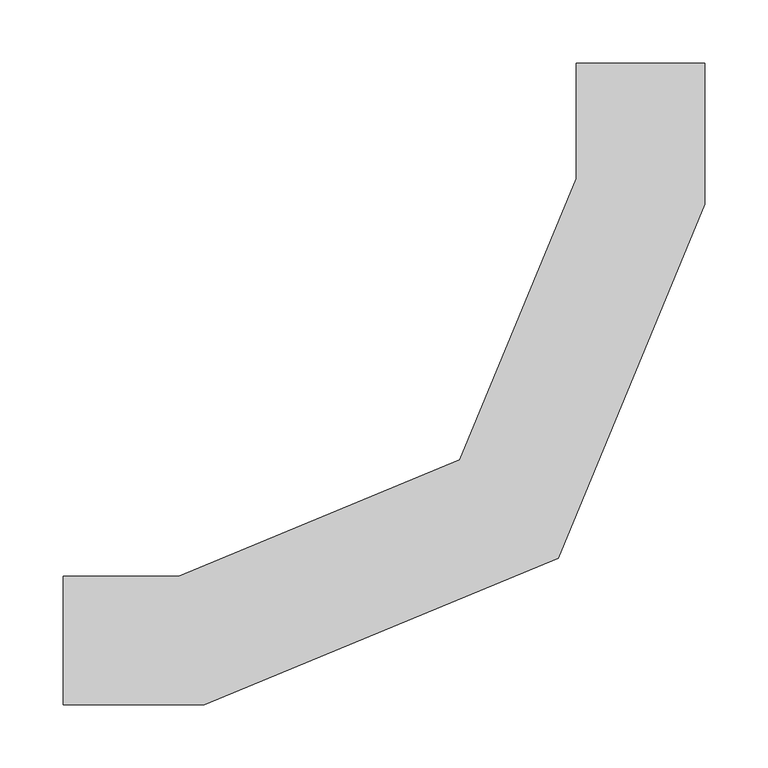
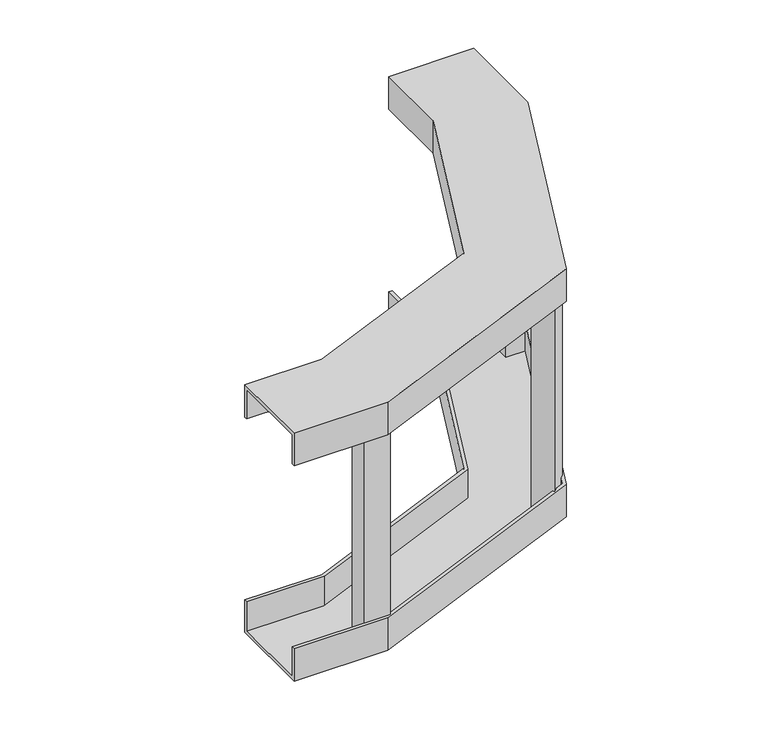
"""IFC4 building model written with IfcOpenShell, lengths in millimetres: cable carrier fitting geometry, CCEFV_Vertical_Inside_Bend-Fibertrav : Fibertrav CCEFV-12."""

from ifc_helpers import new_model, si_unit, frame, origin, place, context, project, spatial, polyline, outline, extrude, faceted_brep, source, transform, mapped, element, save


def cable_carrier_fitting_ab937569(model_context):
    return source(origin(), model_context, "Body", "SolidModel", [
        faceted_brep([(-457.2, -50.8, 156.4), (-457.2, 50.8, 156.4), (-457.2, 50.8, 115.4), (-457.2, 46.8, 115.4), (-457.2, 46.8, 152.4), (-457.2, -46.8, 152.4), (-457.2, -46.8, 115.4), (-457.2, -50.8, 115.4), (50.8, 457.2, 156.4), (50.8, 457.2, 115.4), (46.8, 457.2, 115.4), (46.8, 457.2, 152.4), (-46.8, 457.2, 152.4), (-46.8, 457.2, 115.4), (-50.8, 457.2, 115.4), (-50.8, 457.2, 156.4), (-365.7047483, 50.8, 156.4), (-365.7047483, 50.8, 115.4), (-143.0334653, 143.0334653, 115.4), (-50.8, 365.7047483, 115.4), (-46.8, 364.9090988, 115.4), (-139.9719979, 139.9719979, 115.4), (-364.9090988, 46.8, 115.4), (-364.9090988, 46.8, 152.4), (-139.9719979, 139.9719979, 152.4), (-46.8, 364.9090988, 152.4), (46.8, 346.2909012, 152.4), (-68.3336593, 68.3336593, 152.4), (-346.2909012, -46.8, 152.4), (-346.2909012, -46.8, 115.4), (-68.3336593, 68.3336593, 115.4), (46.8, 346.2909012, 115.4), (50.8, 345.4952517, 115.4), (-65.2721919, 65.2721919, 115.4), (-345.4952517, -50.8, 115.4), (-345.4952517, -50.8, 156.4), (-65.2721919, 65.2721919, 156.4), (50.8, 345.4952517, 156.4), (-50.8, 365.7047483, 156.4), (-143.0334653, 143.0334653, 156.4)], [[[0, 1, 2, 3, 4, 5, 6, 7]], [[8, 9, 10, 11, 12, 13, 14, 15]], [[2, 1, 16, 17]], [[3, 2, 17, 18, 19, 14, 13, 20, 21, 22]], [[4, 3, 22, 23]], [[5, 4, 23, 24, 25, 12, 11, 26, 27, 28]], [[6, 5, 28, 29]], [[7, 6, 29, 30, 31, 10, 9, 32, 33, 34]], [[0, 7, 34, 35]], [[1, 0, 35, 36, 37, 8, 15, 38, 39, 16]], [[19, 38, 15, 14]], [[25, 20, 13, 12]], [[31, 26, 11, 10]], [[37, 32, 9, 8]], [[17, 16, 39, 18]], [[23, 22, 21, 24]], [[29, 28, 27, 30]], [[35, 34, 33, 36]], [[18, 39, 38, 19]], [[24, 21, 20, 25]], [[30, 27, 26, 31]], [[36, 33, 32, 37]]]),
        extrude(outline(polyline([(21.4, 370.85), (46.8, 370.85), (46.8, 340.35), (21.4, 340.35), (21.4, 370.85)])), frame((0.0, 0.0, -152.4), z_axis=(0.0, 0.0, 1.0), x_axis=(1.0, 0.0, 0.0)), (0.0, 0.0, 1.0), 304.8),
        extrude(outline(polyline([(-78.2373651, 99.8041219), (-60.2768528, 81.8436097), (-81.8436097, 60.2768528), (-99.8041219, 78.2373651), (-78.2373651, 99.8041219)])), frame((0.0, 0.0, -152.4), z_axis=(0.0, 0.0, 1.0), x_axis=(1.0, 0.0, 0.0)), (0.0, 0.0, 1.0), 304.8),
        extrude(outline(polyline([(-370.85, -46.8), (-370.85, -21.4), (-340.35, -21.4), (-340.35, -46.8), (-370.85, -46.8)])), frame((0.0, 0.0, -152.4), z_axis=(0.0, 0.0, 1.0), x_axis=(1.0, 0.0, 0.0)), (0.0, 0.0, 1.0), 304.8),
        faceted_brep([(-457.2, -50.8, -156.4), (-457.2, -50.8, -115.4), (-457.2, -46.8, -115.4), (-457.2, -46.8, -152.4), (-457.2, 46.8, -152.4), (-457.2, 46.8, -115.4), (-457.2, 50.8, -115.4), (-457.2, 50.8, -156.4), (50.8, 457.2, -156.4), (-50.8, 457.2, -156.4), (-50.8, 457.2, -115.4), (-46.8, 457.2, -115.4), (-46.8, 457.2, -152.4), (46.8, 457.2, -152.4), (46.8, 457.2, -115.4), (50.8, 457.2, -115.4), (-365.7047483, 50.8, -156.4), (-143.0334653, 143.0334653, -156.4), (-50.8, 365.7047483, -156.4), (50.8, 345.4952517, -156.4), (-65.2721919, 65.2721919, -156.4), (-345.4952517, -50.8, -156.4), (-345.4952517, -50.8, -115.4), (-65.2721919, 65.2721919, -115.4), (50.8, 345.4952517, -115.4), (46.8, 346.2909012, -115.4), (-68.3336593, 68.3336593, -115.4), (-346.2909012, -46.8, -115.4), (-346.2909012, -46.8, -152.4), (-68.3336593, 68.3336593, -152.4), (46.8, 346.2909012, -152.4), (-46.8, 364.9090988, -152.4), (-139.9719979, 139.9719979, -152.4), (-364.9090988, 46.8, -152.4), (-364.9090988, 46.8, -115.4), (-139.9719979, 139.9719979, -115.4), (-46.8, 364.9090988, -115.4), (-50.8, 365.7047483, -115.4), (-143.0334653, 143.0334653, -115.4), (-365.7047483, 50.8, -115.4)], [[[0, 1, 2, 3, 4, 5, 6, 7]], [[8, 9, 10, 11, 12, 13, 14, 15]], [[0, 7, 16, 17, 18, 9, 8, 19, 20, 21]], [[1, 0, 21, 22]], [[2, 1, 22, 23, 24, 15, 14, 25, 26, 27]], [[3, 2, 27, 28]], [[4, 3, 28, 29, 30, 13, 12, 31, 32, 33]], [[5, 4, 33, 34]], [[6, 5, 34, 35, 36, 11, 10, 37, 38, 39]], [[7, 6, 39, 16]], [[24, 19, 8, 15]], [[30, 25, 14, 13]], [[36, 31, 12, 11]], [[18, 37, 10, 9]], [[22, 21, 20, 23]], [[28, 27, 26, 29]], [[34, 33, 32, 35]], [[16, 39, 38, 17]], [[23, 20, 19, 24]], [[29, 26, 25, 30]], [[35, 32, 31, 36]], [[17, 38, 37, 18]]]),
    ])


if __name__ == "__main__":
    model = new_model("IFC4")
    model_context = context("Model", 3, world=origin())
    ifc_project = project(units=[si_unit("LENGTHUNIT", "METRE", prefix="MILLI")], contexts=[model_context])
    site = spatial("IfcSite", under=ifc_project)
    building = spatial("IfcBuilding", under=site)
    placement = place(None, origin())
    cable_carrier_fitting_shape = cable_carrier_fitting_ab937569(model_context)
    element("IfcCableCarrierFitting", 1, ObjectType="CCEFV_Vertical_Inside_Bend-Fibertrav : Fibertrav CCEFV-12", at=placement, inside=building, context=model_context, shape_type="MappedRepresentation", body=[
        mapped(cable_carrier_fitting_shape, transform((0.0, 0.0, 0.0), x_axis=(1.0, 0.0, 0.0), y_axis=(0.0, 1.0, 0.0), z_axis=(0.0, 0.0, 1.0))),
    ])
    save(model, "model.ifc")
